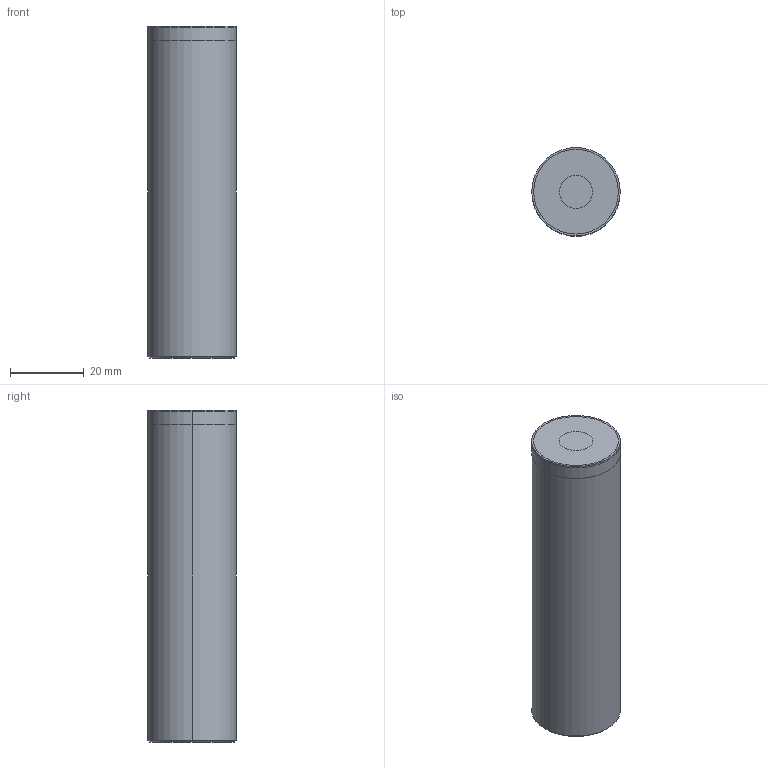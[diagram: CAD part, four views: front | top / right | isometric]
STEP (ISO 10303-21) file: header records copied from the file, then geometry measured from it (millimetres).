
FILE_DESCRIPTION (( 'STEP AP214' ), '1' );
FILE_NAME ('BruyRubio_BRSP_24_X_90.STEP', '2020-01-15T07:46:42', ( '' ), ( '' ), 'SwSTEP 2.0', 'SolidWorks 2017', '' );
FILE_SCHEMA (( 'AUTOMOTIVE_DESIGN' ));
Length unit declared in the file: millimetre
Products named in the file (3): BruyRubio_BRSP_24_X_90; Einbauraum_7931ed; BRSP 24 X 90_40af7a
Assembly tree (2 placements, depth 2):
  BruyRubio_BRSP_24_X_90
    Einbauraum_7931ed
    BRSP 24 X 90_40af7a
Bounding box: 24 x 24 x 90.08 mm (x, y, z)
Volume: 35706.9 mm3; surface area: 11438.1 mm2
Topology: 2 solids, 2 shells, 17 faces, 32 edges, 20 vertices
Faces by surface type: cylinder 8, plane 5, cone 4
Entity records: 735 total; most frequent: DIRECTION 96, CARTESIAN_POINT 74, ORIENTED_EDGE 64, AXIS2_PLACEMENT_3D 42, EDGE_CURVE 32, UNCERTAINTY_MEASURE_WITH_UNIT 24, PRESENTATION_STYLE_ASSIGNMENT 21, SURFACE_STYLE_USAGE 21
